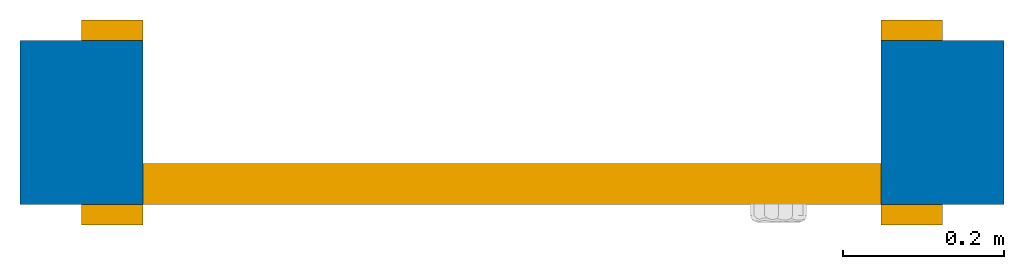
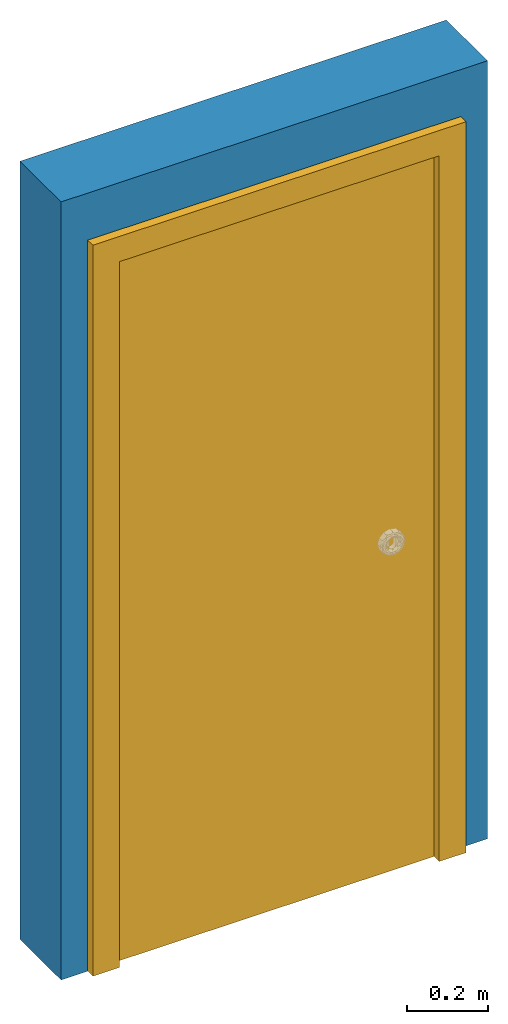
# One storey, part 1 of 2: 1 door, 1 wall, 1 opening.
"""IFC2X3 building model written with IfcOpenShell, lengths in feet."""

from ifc_helpers import new_model, entity, si_unit, converted_unit, derived_unit, direction, frame, frame_2d, origin, place, context, subcontext, project, spatial, polyline, rectangle, outline, extrude, source, transform, mapped, material, material_list, layer, layer_set, layer_usage, type_object, type_shapes, element, fill, save


model = new_model("IFC2X3")

# Units and contexts
model_context = context("Model", 3, precision=0.0001, world=origin(), true_north=direction((6.12303176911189e-17, 1.0)))
body_context = subcontext(model_context, "Body", "Model", "MODEL_VIEW")
ifc_project = project(units=[converted_unit("LENGTHUNIT", "FOOT", entity("IfcRatioMeasure", 0.3048), si_unit("LENGTHUNIT", "METRE"), dimensions=[1, 0, 0, 0, 0, 0, 0]), converted_unit("AREAUNIT", "SQUARE FOOT", entity("IfcRatioMeasure", 0.09290304), si_unit("AREAUNIT", "SQUARE_METRE"), dimensions=[2, 0, 0, 0, 0, 0, 0]), converted_unit("VOLUMEUNIT", "CUBIC FOOT", entity("IfcRatioMeasure", 0.028316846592), si_unit("VOLUMEUNIT", "CUBIC_METRE"), dimensions=[3, 0, 0, 0, 0, 0, 0]), converted_unit("PLANEANGLEUNIT", "DEGREE", entity("IfcRatioMeasure", 0.0174532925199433), si_unit("PLANEANGLEUNIT", "RADIAN"), dimensions=[0, 0, 0, 0, 0, 0, 0]), si_unit("MASSUNIT", "GRAM", prefix="KILO"), derived_unit("MASSDENSITYUNIT", [(si_unit("MASSUNIT", "GRAM", prefix="KILO"), 1), (si_unit("LENGTHUNIT", "METRE"), -3)]), si_unit("TIMEUNIT", "SECOND"), si_unit("FREQUENCYUNIT", "HERTZ"), si_unit("THERMODYNAMICTEMPERATUREUNIT", "DEGREE_CELSIUS"), derived_unit("THERMALTRANSMITTANCEUNIT", [(si_unit("MASSUNIT", "GRAM", prefix="KILO"), 1), (si_unit("THERMODYNAMICTEMPERATUREUNIT", "KELVIN"), -1), (si_unit("TIMEUNIT", "SECOND"), -3)]), derived_unit("VOLUMETRICFLOWRATEUNIT", [(si_unit("LENGTHUNIT", "METRE"), 3), (si_unit("TIMEUNIT", "SECOND"), -1)]), si_unit("ELECTRICCURRENTUNIT", "AMPERE"), si_unit("ELECTRICVOLTAGEUNIT", "VOLT"), si_unit("POWERUNIT", "WATT"), si_unit("FORCEUNIT", "NEWTON"), si_unit("ILLUMINANCEUNIT", "LUX"), si_unit("LUMINOUSFLUXUNIT", "LUMEN"), si_unit("LUMINOUSINTENSITYUNIT", "CANDELA"), derived_unit("USERDEFINED", [(si_unit("MASSUNIT", "GRAM", prefix="KILO"), -1), (si_unit("LENGTHUNIT", "METRE"), -2), (si_unit("TIMEUNIT", "SECOND"), 3), (si_unit("LUMINOUSFLUXUNIT", "LUMEN"), 1)]), derived_unit("LINEARVELOCITYUNIT", [(si_unit("LENGTHUNIT", "METRE"), 1), (si_unit("TIMEUNIT", "SECOND"), -1)]), si_unit("PRESSUREUNIT", "PASCAL"), derived_unit("USERDEFINED", [(si_unit("LENGTHUNIT", "METRE"), -2), (si_unit("MASSUNIT", "GRAM", prefix="KILO"), 1), (si_unit("TIMEUNIT", "SECOND"), -2)])], contexts=[model_context])

# Site, building, storey
site_placement = place(None, origin())
site = spatial("IfcSite", under=ifc_project, at=site_placement, Name="Default", CompositionType="ELEMENT")
building_placement = place(site_placement, origin())
building = spatial("IfcBuilding", under=site, at=building_placement, CompositionType="ELEMENT")
storey_placement = place(building_placement, origin())
storey = spatial("IfcBuildingStorey", under=building, at=storey_placement, Name="Level 1", CompositionType="ELEMENT", Elevation=0.0)

# Wall, opening, door
ifc_material_1 = material(Name="Default Wall")
ifc_layer = layer(ifc_material_1, 0.666666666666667)
ifc_layer_set = layer_set([ifc_layer], Name="Basic Wall:Generic - 8\"")
ifc_layer_usage = layer_usage(ifc_layer_set, "AXIS2", "NEGATIVE", 0.333333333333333)
wall_type = type_object("IfcWallType", Name="Basic Wall:Generic - 8\"", PredefinedType="STANDARD", material=ifc_layer_set)
wall_placement = place(storey_placement, frame((-5.64161871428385, 5.88287630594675, 0.0)))
wall = element("IfcWallStandardCase", 1, at=wall_placement, inside=storey, type_object=wall_type, material=ifc_layer_usage, Name="Basic Wall:Generic - 8\"", ObjectType="Basic Wall:Generic - 8\"", context=body_context, shape_type="SweptSolid", body=[
    extrude(rectangle(XDim=4.0, YDim=0.666666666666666, at=frame_2d((2.0, 2.22044604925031e-16), x_axis=(-1.0, 0.0))), origin(), (0.0, 0.0, 1.0), 7.71672054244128),
])
opening_placement = place(wall_placement, frame((3.5, 0.333333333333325, 0.0)))
opening = element("IfcOpeningElement", 2, at=opening_placement, cuts=wall, Name="Single-Flush:36\" x 84\":1", ObjectType="Opening", context=body_context, shape_type="SweptSolid", body=[
    extrude(rectangle(XDim=3.0, YDim=7.0, at=frame_2d((3.5, 1.5), x_axis=(0.0, 1.0))), frame((0.0, 0.0, 0.0), z_axis=(0.0, -1.0, 0.0), x_axis=(0.0, 0.0, 1.0)), (0.0, 0.0, 1.0), 0.666666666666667),
])
ifc_material_2 = material(Name="Door - Frame")
ifc_material_3 = material(Name="Door - Panel")
ifc_material_list_1 = material_list([ifc_material_2, ifc_material_3])
ifc_material_list_2 = material_list([ifc_material_2, ifc_material_3])
door_style = type_object("IfcDoorStyle", Name="36\" x 84\"", ConstructionType="NOTDEFINED", OperationType="SINGLE_SWING_RIGHT", ParameterTakesPrecedence=False, Sizeable=False, material=ifc_material_list_2)
shared_shape = source(origin(), body_context, "Body", "SweptSolid", [
    extrude(outline(polyline([(-1.75, -3.6875), (1.75, -3.6875), (1.75, 3.5625), (1.5, 3.5625), (1.5, -3.43750000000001), (-1.5, -3.43750000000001), (-1.5, 3.5625), (-1.75, 3.5625), (-1.75, -3.6875)])), frame((1.5, 0.666666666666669, 3.5625), z_axis=(0.0, 1.0, 0.0), x_axis=(1.0, 0.0, 0.0)), (0.0, 0.0, 1.0), 0.0833333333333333),
    extrude(outline(polyline([(-3.6875, -1.74999999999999), (3.5625, -1.74999999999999), (3.5625, -1.50000000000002), (-3.4375, -1.50000000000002), (-3.4375, 1.50000000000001), (3.5625, 1.50000000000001), (3.5625, 1.75000000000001), (-3.6875, 1.75000000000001), (-3.6875, -1.74999999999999)])), frame((1.50000000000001, -0.0833333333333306, 3.5625), z_axis=(0.0, 1.0, 0.0), x_axis=(0.0, 0.0, -1.0)), (0.0, 0.0, 1.0), 0.0833333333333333),
    extrude(rectangle(XDim=0.166666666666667, YDim=3.0, at=frame_2d((-1.38777878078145e-17, 0.0), x_axis=(1.0, 0.0))), frame((1.5, 0.583333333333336, 0.0), z_axis=(0.0, 0.0, 1.0), x_axis=(0.0, 1.0, 0.0)), (0.0, 0.0, 1.0), 7.0),
])
type_shapes(door_style, [shared_shape])
door_placement = place(opening_placement, frame((0.0, 0.0, 0.0), z_axis=(0.0, 0.0, 1.0), x_axis=(-1.0, 0.0, 0.0)))
door = element("IfcDoor", 3, at=door_placement, inside=storey, type_object=door_style, material=ifc_material_list_1, Name="Single-Flush:36\" x 84\"", ObjectType="Single-Flush:36\" x 84\"", OverallHeight=7.0, OverallWidth=3.0, context=body_context, shape_type="MappedRepresentation", body=[
    mapped(shared_shape, transform((0.0, 0.0, 0.0), scale=1.0)),
])
fill(opening, door)

save(model, "model.ifc")
